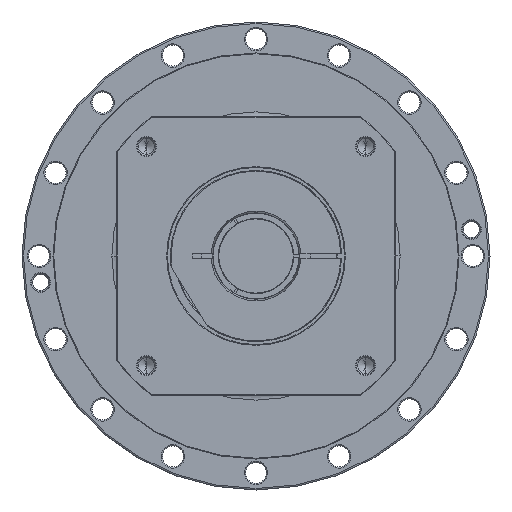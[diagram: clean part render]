
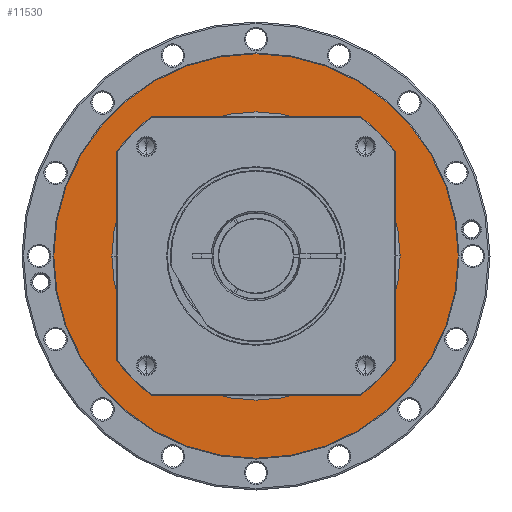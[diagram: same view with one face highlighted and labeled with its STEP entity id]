
A CAD part, left-side view. The second image highlights one B-rep face of the part: STEP entity #11530.
In plain terms, the highlighted planar face has unit normal (-1, 0, 0) as drawn and (1, 0, 0) by its records, which use the part's own axes.
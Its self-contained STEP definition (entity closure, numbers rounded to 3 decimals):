
#10561=CARTESIAN_POINT('',(-9.5,0.,0.));
#10562=DIRECTION('',(-1.,0.,0.));
#10563=DIRECTION('',(0.,-1.,0.));
#10564=AXIS2_PLACEMENT_3D('',#10561,#10562,#10563);
#10566=CARTESIAN_POINT('',(-9.5,0.,0.));
#10567=DIRECTION('',(-1.,0.,0.));
#10568=DIRECTION('',(0.,1.,0.));
#10569=AXIS2_PLACEMENT_3D('',#10566,#10567,#10568);
#10571=CARTESIAN_POINT('',(-9.5,0.,0.));
#10572=DIRECTION('',(-1.,0.,0.));
#10573=DIRECTION('',(0.,-1.,0.));
#10574=AXIS2_PLACEMENT_3D('',#10571,#10572,#10573);
#10576=CARTESIAN_POINT('',(-9.5,0.,0.));
#10577=DIRECTION('',(-1.,0.,0.));
#10578=DIRECTION('',(0.,1.,0.));
#10579=AXIS2_PLACEMENT_3D('',#10576,#10577,#10578);
#10823=CARTESIAN_POINT('',(-9.5,-130.5,0.));
#10824=CARTESIAN_POINT('',(-9.5,130.5,0.));
#10825=VERTEX_POINT('',#10823);
#10826=VERTEX_POINT('',#10824);
#10881=CARTESIAN_POINT('',(-9.5,-93.,0.));
#10882=CARTESIAN_POINT('',(-9.5,93.,0.));
#10883=VERTEX_POINT('',#10881);
#10884=VERTEX_POINT('',#10882);
#11515=CARTESIAN_POINT('',(-9.5,0.,0.));
#11516=DIRECTION('',(1.,0.,0.));
#11517=DIRECTION('',(0.,-1.,0.));
#11518=AXIS2_PLACEMENT_3D('',#11515,#11516,#11517);
#11519=PLANE('',#11518);
#11520=ORIENTED_EDGE('',*,*,#11471,.T.);
#11521=ORIENTED_EDGE('',*,*,#11456,.T.);
#11522=EDGE_LOOP('',(#11520,#11521));
#11523=FACE_OUTER_BOUND('',#11522,.F.);
#11525=ORIENTED_EDGE('',*,*,#11524,.F.);
#11527=ORIENTED_EDGE('',*,*,#11526,.F.);
#11528=EDGE_LOOP('',(#11525,#11527));
#11529=FACE_BOUND('',#11528,.F.);
#11530=ADVANCED_FACE('',(#11523,#11529),#11519,.T.);
#10565=CIRCLE('',#10564,93.);
#10570=CIRCLE('',#10569,93.);
#10575=CIRCLE('',#10574,130.5);
#10580=CIRCLE('',#10579,130.5);
#11456=EDGE_CURVE('',#10826,#10825,#10580,.T.);
#11471=EDGE_CURVE('',#10825,#10826,#10575,.T.);
#11524=EDGE_CURVE('',#10883,#10884,#10565,.T.);
#11526=EDGE_CURVE('',#10884,#10883,#10570,.T.);
